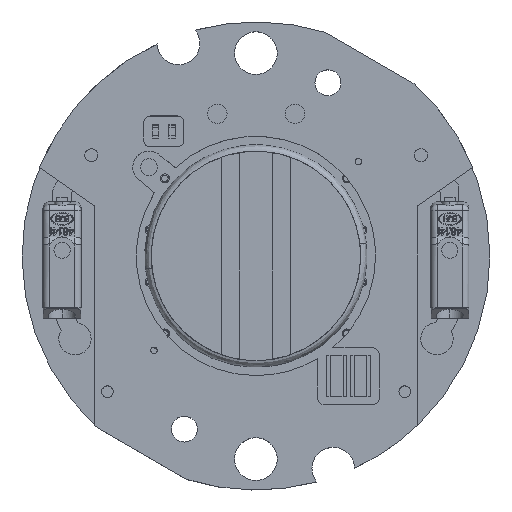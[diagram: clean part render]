
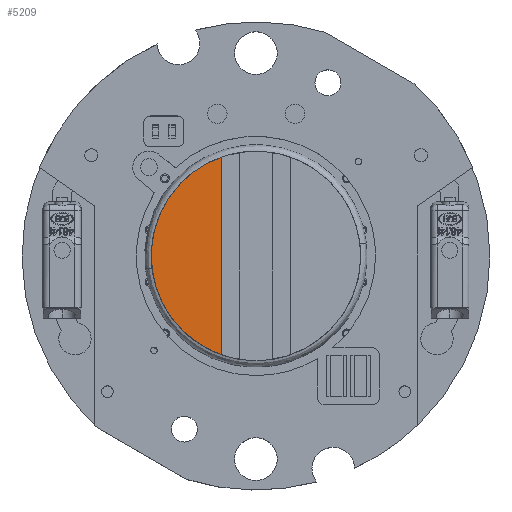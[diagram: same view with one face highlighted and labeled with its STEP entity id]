
A CAD part, top view. The second image highlights one B-rep face of the part: STEP entity #5209.
In plain terms, the highlighted planar face has unit normal (0, 0, 1).
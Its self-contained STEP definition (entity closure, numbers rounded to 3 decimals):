
#693 = AXIS2_PLACEMENT_3D ( 'NONE', #15375, #5339, #4726 ) ;
#3300 = CARTESIAN_POINT ( 'NONE',  ( -0.003, 0.001, 0.666 ) ) ;
#4726 = DIRECTION ( 'NONE',  ( 1., 0., 0. ) ) ;
#4824 = CIRCLE ( 'NONE', #693, 8.1 ) ;
#5209 = ADVANCED_FACE ( 'NONE', ( #30134 ), #17278, .T. ) ;
#5339 = DIRECTION ( 'NONE',  ( 0., 0., 1. ) ) ;
#6139 = VERTEX_POINT ( 'NONE', #41244 ) ;
#6871 = CIRCLE ( 'NONE', #9600, 8.1 ) ;
#7490 = CARTESIAN_POINT ( 'NONE',  ( -2.683, 7.645, 0.666 ) ) ;
#7655 = DIRECTION ( 'NONE',  ( 1., 0., 0. ) ) ;
#8433 = EDGE_CURVE ( 'NONE', #6139, #25893, #40461, .T. ) ;
#9600 = AXIS2_PLACEMENT_3D ( 'NONE', #3300, #10574, #29829 ) ;
#10476 = AXIS2_PLACEMENT_3D ( 'NONE', #23896, #33970, #7655 ) ;
#10574 = DIRECTION ( 'NONE',  ( 0., 0., 1. ) ) ;
#11192 = ORIENTED_EDGE ( 'NONE', *, *, #19217, .T. ) ;
#14103 = VECTOR ( 'NONE', #37051, 1000. ) ;
#15375 = CARTESIAN_POINT ( 'NONE',  ( -0.003, 0.001, 0.666 ) ) ;
#17278 = PLANE ( 'NONE',  #10476 ) ;
#19217 = EDGE_CURVE ( 'NONE', #33682, #25893, #4824, .T. ) ;
#19283 = ORIENTED_EDGE ( 'NONE', *, *, #8433, .F. ) ;
#23896 = CARTESIAN_POINT ( 'NONE',  ( -0.003, 0.001, 0.666 ) ) ;
#23939 = EDGE_LOOP ( 'NONE', ( #19283, #29874, #11192 ) ) ;
#25893 = VERTEX_POINT ( 'NONE', #27272 ) ;
#27272 = CARTESIAN_POINT ( 'NONE',  ( -2.683, -7.643, 0.666 ) ) ;
#29829 = DIRECTION ( 'NONE',  ( 1., 0., 0. ) ) ;
#29874 = ORIENTED_EDGE ( 'NONE', *, *, #38126, .T. ) ;
#30134 = FACE_OUTER_BOUND ( 'NONE', #23939, .T. ) ;
#32568 = CARTESIAN_POINT ( 'NONE',  ( -8.103, 0.001, 0.666 ) ) ;
#33682 = VERTEX_POINT ( 'NONE', #32568 ) ;
#33970 = DIRECTION ( 'NONE',  ( 0., 0., 1. ) ) ;
#37051 = DIRECTION ( 'NONE',  ( 0., -1., 0. ) ) ;
#38126 = EDGE_CURVE ( 'NONE', #6139, #33682, #6871, .T. ) ;
#40461 = LINE ( 'NONE', #7490, #14103 ) ;
#41244 = CARTESIAN_POINT ( 'NONE',  ( -2.683, 7.645, 0.666 ) ) ;
